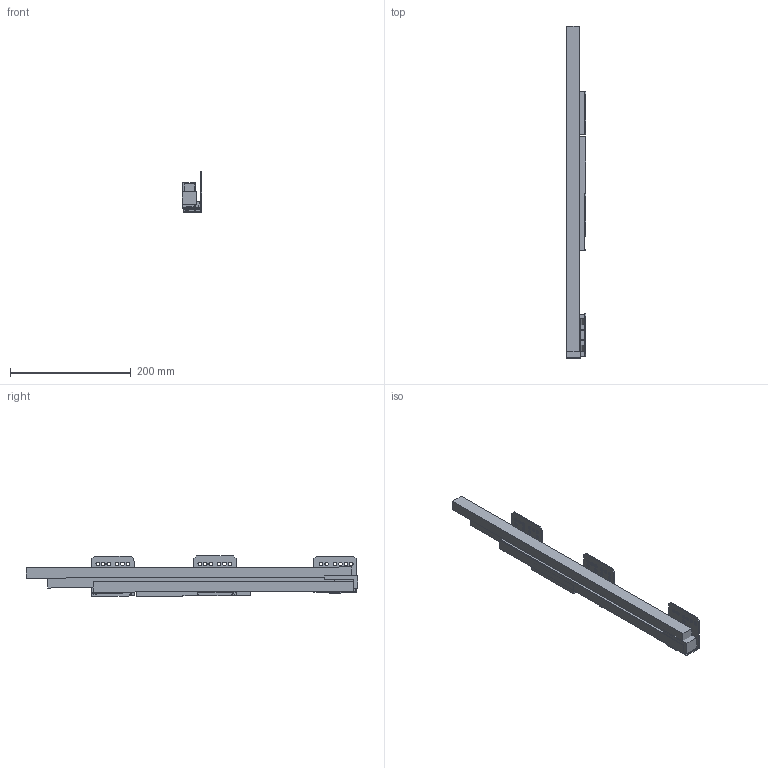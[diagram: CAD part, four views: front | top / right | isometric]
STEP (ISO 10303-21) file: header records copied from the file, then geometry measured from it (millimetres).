
FILE_DESCRIPTION (( 'STEP AP214' ), '1' );
FILE_NAME ('_IMOS Dynamic-XP VA 60kg NL550 RE.step', '2010-07-07T08:07:45', ( 'grass' ), ( '' ), 'SwSTEP 2.0', 'SolidWorks 2010', '' );
FILE_SCHEMA (( 'AUTOMOTIVE_DESIGN' ));
Length unit declared in the file: millimetre
Products named in the file (1): _IMOS Dynamic-XP VA 60kg NL550 RE
Bounding box: 32.79 x 549.89 x 66.67 mm (x, y, z)
Volume: 478568.3 mm3; surface area: 181874.9 mm2
Topology: 8 solids, 8 shells, 205 faces, 567 edges, 378 vertices
Faces by surface type: plane 141, cylinder 64
Entity records: 6754 total; most frequent: CARTESIAN_POINT 1151, ORIENTED_EDGE 1134, DIRECTION 1107, EDGE_CURVE 567, VECTOR 439, LINE 439, VERTEX_POINT 378, AXIS2_PLACEMENT_3D 334
